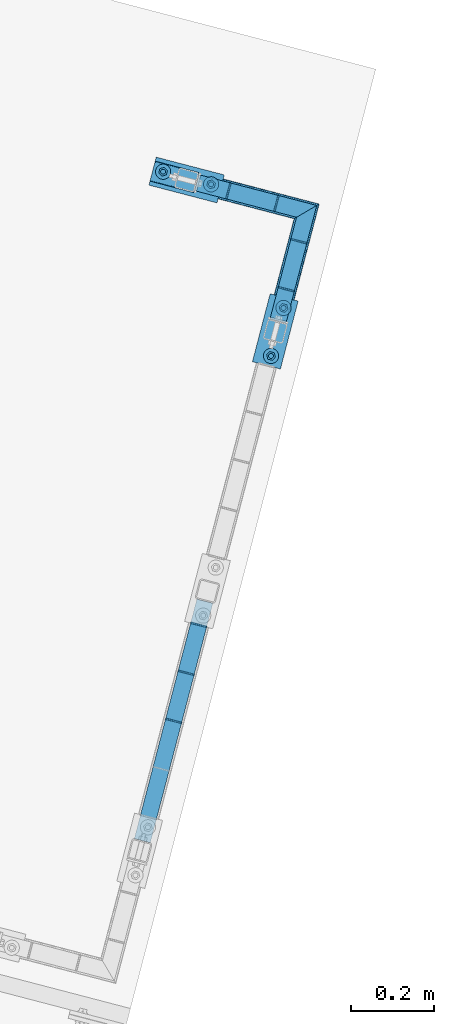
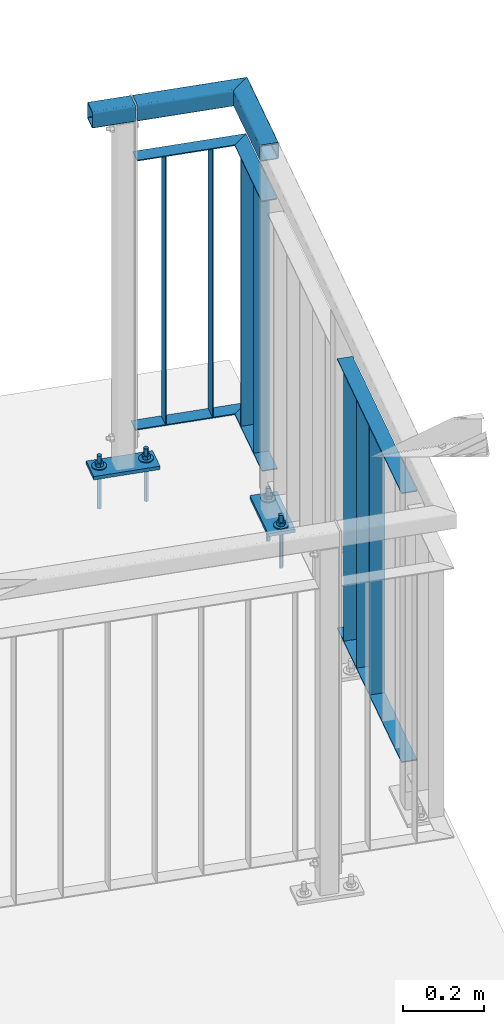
# One storey, part 97 of 169: 18 discrete accessories, 2 mechanical fasteners, 1 element without a shape of its own.
"""IFC2X3 building model written with IfcOpenShell, lengths in millimetres."""

from ifc_helpers import new_model, si_unit, frame, frame_2d, origin_with_axes, origin_2d_with_axis, place, context, subcontext, project, spatial, polyline, circle_curve, parameter, trimmed, segment, composite_curve, rectangle, hollow_rectangle, circle, outline, extrude, boolean, clip, halfspace, source, transform, mapped, material, type_object, element, aggregate, save


model = new_model("IFC2X3")

# Units and contexts
model_context = context("Model", 3, precision=1e-05, world=origin_with_axes())
body_context = subcontext(model_context, "Body", "Model", "MODEL_VIEW")
ifc_project = project(units=[si_unit("LENGTHUNIT", "METRE", prefix="MILLI"), si_unit("AREAUNIT", "SQUARE_METRE"), si_unit("VOLUMEUNIT", "CUBIC_METRE"), si_unit("MASSUNIT", "GRAM", prefix="KILO"), si_unit("TIMEUNIT", "SECOND"), si_unit("PLANEANGLEUNIT", "RADIAN"), si_unit("SOLIDANGLEUNIT", "STERADIAN"), si_unit("THERMODYNAMICTEMPERATUREUNIT", "DEGREE_CELSIUS"), si_unit("LUMINOUSINTENSITYUNIT", "LUMEN")], contexts=[model_context])

# Site, building, storey
site_placement = place(None, origin_with_axes())
site = spatial("IfcSite", under=ifc_project, at=site_placement, Name="Undefined", CompositionType="ELEMENT")
building_placement = place(site_placement, origin_with_axes())
building = spatial("IfcBuilding", under=site, at=building_placement, Name="Undefined", CompositionType="ELEMENT")
storey_placement = place(building_placement, origin_with_axes())
storey = spatial("IfcBuildingStorey", under=building, at=storey_placement, Name="Undefined", CompositionType="ELEMENT", Elevation=0.0)

# Assembly, discrete accessories, mechanical fasteners
assembly_placement = place(storey_placement, origin_with_axes())
assembly = element("IfcElementAssembly", 1, at=assembly_placement, inside=storey, Name="Steel Assembly", AssemblyPlace="NOTDEFINED", PredefinedType="RIGID_FRAME")
ifc_material_1 = material(Name="STEEL/S235")
discrete_accessory_type_1 = type_object("IfcDiscreteAccessoryType", Name="BLACHA")
discrete_accessory_1_placement = place(assembly_placement, frame((-6702.13341684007, 22082.872799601, 12570.4183763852), z_axis=(0.0, 0.0, 1.0), x_axis=(0.967563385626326, -0.252628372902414, 0.0)))
discrete_accessory_1 = element("IfcDiscreteAccessory", 2, at=discrete_accessory_1_placement, type_object=discrete_accessory_type_1, material=ifc_material_1, Name="BLACHA", ObjectType="BL10*170", context=body_context, shape_type="SweptSolid", body=[
    extrude(outline(polyline([(-5.82076609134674e-11, -84.99999999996), (5.82076609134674e-11, 84.99999999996), (70.0000000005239, 84.9999999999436), (70.0000000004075, -84.9999999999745), (-5.82076609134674e-11, -84.99999999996)])), frame((-1.81898926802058e-12, -1.18000176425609e-16, -5.00000000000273), z_axis=(0.0, 0.0, 1.0), x_axis=(1.0, 0.0, 0.0)), (0.0, 0.0, 1.0), 10.0),
])
discrete_accessory_2_placement = place(assembly_placement, frame((-6891.59119518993, 22406.2236156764, 12570.4183764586), z_axis=(0.0, 0.0, 1.0), x_axis=(0.252628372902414, 0.967563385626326, 0.0)))
discrete_accessory_2 = element("IfcDiscreteAccessory", 3, at=discrete_accessory_2_placement, type_object=discrete_accessory_type_1, material=ifc_material_1, Name="BLACHA", ObjectType="BL10*170", context=body_context, shape_type="SweptSolid", body=[
    extrude(outline(polyline([(5.82076609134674e-11, 84.99999999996), (70.0000000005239, 84.9999999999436), (70.0000000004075, -84.9999999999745), (-5.82076609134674e-11, -84.99999999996), (5.82076609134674e-11, 84.99999999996)])), frame((-1.81898926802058e-12, -1.18000176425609e-16, -5.00000000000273), z_axis=(0.0, 0.0, 1.0), x_axis=(1.0, 0.0, 0.0)), (0.0, 0.0, 1.0), 10.0),
])
discrete_accessory_type_2 = type_object("IfcDiscreteAccessoryType", Name="PORĘCZ")
discrete_accessory_3_placement = place(assembly_placement, frame((-6858.56011749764, 22433.7726248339, 13640.4183763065), z_axis=(-0.252628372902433, -0.967563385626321, 0.0), x_axis=(-0.967563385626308, 0.252628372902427, -1.72000000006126e-07)))
discrete_accessory_3 = element("IfcDiscreteAccessory", 4, at=discrete_accessory_3_placement, type_object=discrete_accessory_type_2, material=ifc_material_1, Name="PORĘCZ", ObjectType="RHS50*3", context=body_context, shape_type="SweptSolid", body=[
    extrude(hollow_rectangle(XDim=50.0, YDim=50.0, WallThickness=3.0, InnerFilletRadius=3.0, OuterFilletRadius=6.0, at=origin_2d_with_axis()), frame((109.99999999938, 0.0, 0.0), z_axis=(-1.0, -3.46944695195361e-18, -1.38777878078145e-17), x_axis=(1.73472347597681e-18, -1.0, 0.0)), (0.0, 0.0, 1.0), 110.0),
])
discrete_accessory_4_placement = place(assembly_placement, frame((-6882.74920213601, 22440.0883341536, 13495.4183763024), z_axis=(-2.54700353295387e-10, 0.0, -1.0), x_axis=(0.967563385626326, -0.252628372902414, 0.0)))
discrete_accessory_4 = element("IfcDiscreteAccessory", 5, at=discrete_accessory_4_placement, type_object=discrete_accessory_type_2, material=ifc_material_1, Name="PORĘCZ", ObjectType="BL40*3", context=body_context, shape_type="CSG", body=[
    boolean("DIFFERENCE", boolean("DIFFERENCE", boolean("DIFFERENCE", boolean("DIFFERENCE", extrude(outline(polyline([(29.999999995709, 20.0000000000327), (279.99999995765, 20.0000000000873), (319.999999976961, -19.9999999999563), (29.9999999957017, -20.0000000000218), (29.999999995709, 20.0000000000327)])), frame((1.81898940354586e-12, -1.77635442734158e-15, -1.50000000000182), z_axis=(0.0, 0.0, 1.0), x_axis=(1.0, 0.0, 0.0)), (0.0, 0.0, 1.0), 3.0), extrude(rectangle(XDim=51.0, YDim=51.0, at=origin_2d_with_axis()), frame((-5.94487782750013e-08, -4.65977194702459e-09, -139.999999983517), z_axis=(0.0, 0.0, 1.0), x_axis=(1.0, 0.0, 0.0)), (0.0, 0.0, 1.0), 280.0)), halfspace(frame((29.9999999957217, 999.999999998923, 0.0), z_axis=(1.0, 0.0, 0.0), x_axis=(-2.54700353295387e-10, 0.0, -1.0)), True)), halfspace(frame((279.999999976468, 20.0000000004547, -3.63797880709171e-12), z_axis=(0.707106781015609, 0.707106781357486, 0.0), x_axis=(-2.54700353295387e-10, 0.0, -1.0)), False)), halfspace(frame((24.9999999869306, 1000.00000000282, -1.78988557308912e-09), z_axis=(1.0, 0.0, 0.0), x_axis=(-2.54700353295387e-10, 0.0, -1.0)), True)),
])
discrete_accessory_5_placement = place(assembly_placement, frame((-6781.63882833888, 22413.6886691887, 13640.4183763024), z_axis=(-0.967563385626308, 0.252628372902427, -1.72000000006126e-07), x_axis=(-2.54700353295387e-10, 0.0, -1.0)))
discrete_accessory_5 = element("IfcDiscreteAccessory", 6, at=discrete_accessory_5_placement, type_object=discrete_accessory_type_2, material=ifc_material_1, Name="PORĘCZ", ObjectType="BL40*3", context=body_context, shape_type="Clipping", body=[
    clip(clip(clip(extrude(outline(polyline([(953.5, 20.0000000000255), (953.5, -20.0000000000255), (146.5, -20.0000000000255), (146.5, 20.0000000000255), (953.5, 20.0000000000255)])), frame((1.81898940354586e-12, -1.77635442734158e-15, -1.50000000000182), z_axis=(0.0, 0.0, 1.0), x_axis=(1.0, 0.0, 0.0)), (0.0, 0.0, 1.0), 3.0), halfspace(frame((146.5, 1000.00000000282, -1.78988557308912e-09), z_axis=(1.0, 0.0, 0.0), x_axis=(-2.54700353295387e-10, 0.0, -1.0)), True)), halfspace(frame((24.9999999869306, 1000.00000000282, -1.78988557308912e-09), z_axis=(1.0, 0.0, 0.0), x_axis=(-2.54700353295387e-10, 0.0, -1.0)), True)), halfspace(frame((953.5, 999.999999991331, -2.08819983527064e-09), z_axis=(-1.0, -3.46944695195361e-18, -1.38777878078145e-17), x_axis=(0.0, 0.0, 1.0)), True)),
])
discrete_accessory_6_placement = place(assembly_placement, frame((-6665.53122206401, 22383.3732644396, 13640.4183763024), z_axis=(-0.967563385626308, 0.252628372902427, -1.72000000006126e-07), x_axis=(-2.54700353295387e-10, 0.0, -1.0)))
discrete_accessory_6 = element("IfcDiscreteAccessory", 7, at=discrete_accessory_6_placement, type_object=discrete_accessory_type_2, material=ifc_material_1, Name="PORĘCZ", ObjectType="BL40*3", context=body_context, shape_type="Clipping", body=[
    clip(clip(clip(extrude(outline(polyline([(953.5, 20.0000000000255), (953.5, -20.0000000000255), (146.5, -20.0000000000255), (146.5, 20.0000000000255), (953.5, 20.0000000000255)])), frame((1.81898940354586e-12, -1.77635442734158e-15, -1.50000000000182), z_axis=(0.0, 0.0, 1.0), x_axis=(1.0, 0.0, 0.0)), (0.0, 0.0, 1.0), 3.0), halfspace(frame((146.5, 1000.00000000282, -1.78988557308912e-09), z_axis=(1.0, 0.0, 0.0), x_axis=(-2.54700353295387e-10, 0.0, -1.0)), True)), halfspace(frame((24.9999999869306, 1000.00000000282, -1.78988557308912e-09), z_axis=(1.0, 0.0, 0.0), x_axis=(-2.54700353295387e-10, 0.0, -1.0)), True)), halfspace(frame((953.5, 999.999999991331, -2.08819983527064e-09), z_axis=(-1.0, -3.46944695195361e-18, -1.38777878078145e-17), x_axis=(0.0, 0.0, 1.0)), True)),
])
discrete_accessory_7_placement = place(assembly_placement, frame((-6882.74920213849, 22440.0883341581, 12685.4183763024), z_axis=(-2.54700353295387e-10, 0.0, -1.0), x_axis=(0.967563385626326, -0.252628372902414, 0.0)))
discrete_accessory_7 = element("IfcDiscreteAccessory", 8, at=discrete_accessory_7_placement, type_object=discrete_accessory_type_2, material=ifc_material_1, Name="PORĘCZ", ObjectType="BL40*3", context=body_context, shape_type="CSG", body=[
    boolean("DIFFERENCE", boolean("DIFFERENCE", boolean("DIFFERENCE", boolean("DIFFERENCE", extrude(outline(polyline([(25.4999999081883, 20.0000000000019), (279.99999995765, 20.0000000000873), (319.999999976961, -19.9999999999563), (25.499999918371, -19.9999999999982), (25.4999999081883, 20.0000000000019)])), frame((1.81898940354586e-12, -1.77635442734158e-15, -1.50000000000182), z_axis=(0.0, 0.0, 1.0), x_axis=(1.0, 0.0, 0.0)), (0.0, 0.0, 1.0), 3.0), extrude(rectangle(XDim=51.0, YDim=51.0, at=origin_2d_with_axis()), frame((-5.94487782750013e-08, -4.65977194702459e-09, -139.999999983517), z_axis=(0.0, 0.0, 1.0), x_axis=(1.0, 0.0, 0.0)), (0.0, 0.0, 1.0), 280.0)), halfspace(frame((25.500000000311, 1000.00000000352, -1.81898940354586e-12), z_axis=(1.0, 0.0, 0.0), x_axis=(-2.54700353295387e-10, 0.0, -1.0)), True)), halfspace(frame((279.999999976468, 20.0000000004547, -3.63797880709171e-12), z_axis=(0.707106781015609, 0.707106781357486, 0.0), x_axis=(-2.54700353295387e-10, 0.0, -1.0)), False)), halfspace(frame((24.9999999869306, 1000.00000000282, -1.78988557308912e-09), z_axis=(1.0, 0.0, 0.0), x_axis=(-2.54700353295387e-10, 0.0, -1.0)), True)),
])
discrete_accessory_8_placement = place(assembly_placement, frame((-6578.83825434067, 22416.5482450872, 13495.4183763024), z_axis=(-2.54700353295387e-10, 0.0, -1.0), x_axis=(-0.252628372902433, -0.967563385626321, 0.0)))
discrete_accessory_8 = element("IfcDiscreteAccessory", 9, at=discrete_accessory_8_placement, type_object=discrete_accessory_type_2, material=ifc_material_1, Name="PORĘCZ", ObjectType="BL40*3", context=body_context, shape_type="CSG", body=[
    boolean("DIFFERENCE", boolean("DIFFERENCE", boolean("DIFFERENCE", boolean("DIFFERENCE", extrude(outline(polyline([(324.000000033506, 19.9999999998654), (324.000000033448, -20.0000000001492), (33.9999999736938, -20.0000000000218), (73.9999999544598, 19.9999999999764), (324.000000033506, 19.9999999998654)])), frame((1.81898940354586e-12, -1.77635442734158e-15, -1.50000000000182), z_axis=(0.0, 0.0, 1.0), x_axis=(1.0, 0.0, 0.0)), (0.0, 0.0, 1.0), 3.0), extrude(rectangle(XDim=51.0, YDim=51.0, at=origin_2d_with_axis()), frame((354.00000002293, -5.93172444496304e-09, -140.0), z_axis=(0.0, 0.0, 1.0), x_axis=(1.0, 0.0, 0.0)), (0.0, 0.0, 1.0), 280.0)), halfspace(frame((324.000000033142, 1000.00000000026, 0.0), z_axis=(-1.0, -3.46944695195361e-18, -1.38777878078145e-17), x_axis=(0.0, 0.0, 1.0)), True)), halfspace(frame((73.9999999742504, 20.000000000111, 0.0), z_axis=(0.707106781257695, -0.7071067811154, 8.78533101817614e-11), x_axis=(-2.54700353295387e-10, 0.0, -1.0)), True)), halfspace(frame((329.000000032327, 1000.00000000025, 0.0), z_axis=(-1.0, -3.46944695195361e-18, -1.38777878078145e-17), x_axis=(0.0, 0.0, 1.0)), True)),
])
discrete_accessory_9_placement = place(assembly_placement, frame((-6611.32017011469, 22292.1429296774, 13640.4183763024), z_axis=(0.252628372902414, 0.967563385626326, 0.0), x_axis=(-2.54700353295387e-10, 0.0, -1.0)))
discrete_accessory_9 = element("IfcDiscreteAccessory", 10, at=discrete_accessory_9_placement, type_object=discrete_accessory_type_2, material=ifc_material_1, Name="PORĘCZ", ObjectType="BL40*3", context=body_context, shape_type="Clipping", body=[
    clip(clip(clip(extrude(outline(polyline([(953.5, 20.0000000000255), (953.5, -20.0000000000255), (146.5, -20.0000000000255), (146.5, 20.0000000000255), (953.5, 20.0000000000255)])), frame((1.81898940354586e-12, -1.77635442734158e-15, -1.50000000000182), z_axis=(0.0, 0.0, 1.0), x_axis=(1.0, 0.0, 0.0)), (0.0, 0.0, 1.0), 3.0), halfspace(frame((146.5, 1000.00000000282, -1.78988557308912e-09), z_axis=(1.0, 0.0, 0.0), x_axis=(-2.54700353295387e-10, 0.0, -1.0)), True)), halfspace(frame((24.9999999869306, 1000.00000000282, -1.78988557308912e-09), z_axis=(1.0, 0.0, 0.0), x_axis=(-2.54700353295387e-10, 0.0, -1.0)), True)), halfspace(frame((953.5, 999.999999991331, -2.08819983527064e-09), z_axis=(-1.0, -3.46944695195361e-18, -1.38777878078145e-17), x_axis=(0.0, 0.0, 1.0)), True)),
])
discrete_accessory_10_placement = place(assembly_placement, frame((-6641.63557486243, 22176.0353234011, 13640.4183763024), z_axis=(0.252628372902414, 0.967563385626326, 0.0), x_axis=(-2.54700353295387e-10, 0.0, -1.0)))
discrete_accessory_10 = element("IfcDiscreteAccessory", 11, at=discrete_accessory_10_placement, type_object=discrete_accessory_type_2, material=ifc_material_1, Name="PORĘCZ", ObjectType="BL40*3", context=body_context, shape_type="Clipping", body=[
    clip(clip(clip(extrude(outline(polyline([(953.5, 20.0000000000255), (953.5, -20.0000000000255), (146.5, -20.0000000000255), (146.5, 20.0000000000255), (953.5, 20.0000000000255)])), frame((1.81898940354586e-12, -1.77635442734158e-15, -1.50000000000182), z_axis=(0.0, 0.0, 1.0), x_axis=(1.0, 0.0, 0.0)), (0.0, 0.0, 1.0), 3.0), halfspace(frame((146.5, 1000.00000000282, -1.78988557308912e-09), z_axis=(1.0, 0.0, 0.0), x_axis=(-2.54700353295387e-10, 0.0, -1.0)), True)), halfspace(frame((24.9999999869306, 1000.00000000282, -1.78988557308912e-09), z_axis=(1.0, 0.0, 0.0), x_axis=(-2.54700353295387e-10, 0.0, -1.0)), True)), halfspace(frame((953.5, 999.999999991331, -2.08819983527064e-09), z_axis=(-1.0, -3.46944695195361e-18, -1.38777878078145e-17), x_axis=(0.0, 0.0, 1.0)), True)),
])
discrete_accessory_11_placement = place(assembly_placement, frame((-6578.83825434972, 22416.5482450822, 12685.4183763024), z_axis=(-2.54700353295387e-10, 0.0, -1.0), x_axis=(-0.252628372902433, -0.967563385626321, 0.0)))
discrete_accessory_11 = element("IfcDiscreteAccessory", 12, at=discrete_accessory_11_placement, type_object=discrete_accessory_type_2, material=ifc_material_1, Name="PORĘCZ", ObjectType="BL40*3", context=body_context, shape_type="CSG", body=[
    boolean("DIFFERENCE", boolean("DIFFERENCE", boolean("DIFFERENCE", boolean("DIFFERENCE", extrude(outline(polyline([(327.803633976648, 20.0000000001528), (327.803633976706, -19.9999999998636), (33.9999999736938, -20.0000000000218), (73.9999999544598, 19.9999999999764), (327.803633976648, 20.0000000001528)])), frame((1.81898940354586e-12, -1.77635442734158e-15, -1.50000000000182), z_axis=(0.0, 0.0, 1.0), x_axis=(1.0, 0.0, 0.0)), (0.0, 0.0, 1.0), 3.0), extrude(rectangle(XDim=51.0, YDim=51.0, at=origin_2d_with_axis()), frame((354.00000002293, -5.93172444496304e-09, -140.0), z_axis=(0.0, 0.0, 1.0), x_axis=(1.0, 0.0, 0.0)), (0.0, 0.0, 1.0), 280.0)), halfspace(frame((327.803633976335, 1000.00000000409, -1.81898940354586e-12), z_axis=(-1.0, -3.46944695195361e-18, -1.38777878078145e-17), x_axis=(0.0, 0.0, 1.0)), True)), halfspace(frame((73.9999999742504, 20.000000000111, 0.0), z_axis=(0.707106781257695, -0.7071067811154, 8.78533101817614e-11), x_axis=(-2.54700353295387e-10, 0.0, -1.0)), True)), halfspace(frame((329.000000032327, 1000.00000000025, 0.0), z_axis=(-1.0, -3.46944695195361e-18, -1.38777878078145e-17), x_axis=(0.0, 0.0, 1.0)), True)),
])
discrete_accessory_12_placement = place(assembly_placement, frame((-6844.93380274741, 21397.4057522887, 13495.4183763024), z_axis=(-2.54700353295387e-10, 0.0, -1.0), x_axis=(-0.252628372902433, -0.967563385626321, 0.0)))
discrete_accessory_12 = element("IfcDiscreteAccessory", 13, at=discrete_accessory_12_placement, type_object=discrete_accessory_type_2, material=ifc_material_1, Name="PORĘCZ", ObjectType="BL40*3", context=body_context, shape_type="CSG", body=[
    boolean("DIFFERENCE", boolean("DIFFERENCE", boolean("DIFFERENCE", extrude(outline(polyline([(573.700978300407, 20.0000000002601), (573.700978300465, -19.9999999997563), (-25.3036339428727, -20.00000000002), (-25.3036339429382, 19.9999999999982), (573.700978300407, 20.0000000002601)])), frame((1.81898940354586e-12, -1.77635442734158e-15, -1.50000000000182), z_axis=(0.0, 0.0, 1.0), x_axis=(1.0, 0.0, 0.0)), (0.0, 0.0, 1.0), 3.0), extrude(rectangle(XDim=51.0, YDim=51.0, at=origin_2d_with_axis()), frame((-51.0000000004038, 1.04846549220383e-08, -140.0), z_axis=(0.0, 0.0, 1.0), x_axis=(1.0, 0.0, 0.0)), (0.0, 0.0, 1.0), 280.0)), halfspace(frame((-25.30363394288, 1000.00000000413, 0.0), z_axis=(1.0, 0.0, 0.0), x_axis=(-2.54700353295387e-10, 0.0, -1.0)), True)), halfspace(frame((573.700978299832, 1000.00000000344, 0.0), z_axis=(-1.0, -3.46944695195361e-18, -1.38777878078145e-17), x_axis=(0.0, 0.0, 1.0)), True)),
])
discrete_accessory_13_placement = place(assembly_placement, frame((-6661.95298903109, 22098.2198911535, 13640.4183763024), z_axis=(-0.967563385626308, 0.252628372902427, -1.72000000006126e-07), x_axis=(0.252628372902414, 0.967563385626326, 0.0)))
discrete_accessory_13 = element("IfcDiscreteAccessory", 14, at=discrete_accessory_13_placement, type_object=discrete_accessory_type_2, material=ifc_material_1, Name="PORĘCZ", ObjectType="RHS50*3", context=body_context, shape_type="Clipping", body=[
    clip(clip(extrude(hollow_rectangle(XDim=50.0, YDim=50.0, WallThickness=3.0, InnerFilletRadius=3.0, OuterFilletRadius=6.0, at=origin_2d_with_axis()), frame((312.593915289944, 1.81898940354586e-12, 0.0), z_axis=(-1.0, -3.46944695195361e-18, -1.38777878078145e-17), x_axis=(1.73472347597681e-18, -1.0, 0.0)), (0.0, 0.0, 1.0), 307.59), halfspace(frame((250.000000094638, 1.81898940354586e-12, 25.0000000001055), z_axis=(-0.707106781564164, -2.34576254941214e-10, -0.707106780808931), x_axis=(1.73472347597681e-18, -1.0, 0.0)), True)), halfspace(frame((4.99999708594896, 5.00222085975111e-10, 999.999999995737), z_axis=(1.0, 0.0, 0.0), x_axis=(0.0, 1.0, 0.0)), True)),
])
discrete_accessory_14_placement = place(assembly_placement, frame((-6853.50399758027, 21364.5820174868, 13640.4183763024), z_axis=(0.252628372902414, 0.967563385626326, 0.0), x_axis=(-2.54700353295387e-10, 0.0, -1.0)))
discrete_accessory_14 = element("IfcDiscreteAccessory", 15, at=discrete_accessory_14_placement, type_object=discrete_accessory_type_2, material=ifc_material_1, Name="PORĘCZ", ObjectType="BL40*3", context=body_context, shape_type="Clipping", body=[
    clip(clip(extrude(outline(polyline([(953.5, 20.0000000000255), (953.5, -20.0000000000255), (146.5, -20.0000000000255), (146.5, 20.0000000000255), (953.5, 20.0000000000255)])), frame((1.81898940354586e-12, -1.77635442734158e-15, -1.50000000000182), z_axis=(0.0, 0.0, 1.0), x_axis=(1.0, 0.0, 0.0)), (0.0, 0.0, 1.0), 3.0), halfspace(frame((146.5, 1000.00000000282, -1.78988557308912e-09), z_axis=(1.0, 0.0, 0.0), x_axis=(-2.54700353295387e-10, 0.0, -1.0)), True)), halfspace(frame((953.5, 999.999999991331, -2.08819983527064e-09), z_axis=(-1.0, -3.46944695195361e-18, -1.38777878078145e-17), x_axis=(0.0, 0.0, 1.0)), True)),
])
discrete_accessory_15_placement = place(assembly_placement, frame((-6883.81940232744, 21248.4744112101, 13640.4183763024), z_axis=(0.252628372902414, 0.967563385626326, 0.0), x_axis=(-2.54700353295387e-10, 0.0, -1.0)))
discrete_accessory_15 = element("IfcDiscreteAccessory", 16, at=discrete_accessory_15_placement, type_object=discrete_accessory_type_2, material=ifc_material_1, Name="PORĘCZ", ObjectType="BL40*3", context=body_context, shape_type="Clipping", body=[
    clip(clip(extrude(outline(polyline([(953.5, 20.0000000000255), (953.5, -20.0000000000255), (146.5, -20.0000000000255), (146.5, 20.0000000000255), (953.5, 20.0000000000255)])), frame((1.81898940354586e-12, -1.77635442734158e-15, -1.50000000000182), z_axis=(0.0, 0.0, 1.0), x_axis=(1.0, 0.0, 0.0)), (0.0, 0.0, 1.0), 3.0), halfspace(frame((146.5, 1000.00000000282, -1.78988557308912e-09), z_axis=(1.0, 0.0, 0.0), x_axis=(-2.54700353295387e-10, 0.0, -1.0)), True)), halfspace(frame((953.5, 999.999999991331, -2.08819983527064e-09), z_axis=(-1.0, -3.46944695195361e-18, -1.38777878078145e-17), x_axis=(0.0, 0.0, 1.0)), True)),
])
discrete_accessory_16_placement = place(assembly_placement, frame((-6914.13480707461, 21132.3668049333, 13640.4183763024), z_axis=(0.252628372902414, 0.967563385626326, 0.0), x_axis=(-2.54700353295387e-10, 0.0, -1.0)))
discrete_accessory_16 = element("IfcDiscreteAccessory", 17, at=discrete_accessory_16_placement, type_object=discrete_accessory_type_2, material=ifc_material_1, Name="PORĘCZ", ObjectType="BL40*3", context=body_context, shape_type="Clipping", body=[
    clip(clip(extrude(outline(polyline([(953.5, 20.0000000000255), (953.5, -20.0000000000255), (146.5, -20.0000000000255), (146.5, 20.0000000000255), (953.5, 20.0000000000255)])), frame((1.81898940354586e-12, -1.77635442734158e-15, -1.50000000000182), z_axis=(0.0, 0.0, 1.0), x_axis=(1.0, 0.0, 0.0)), (0.0, 0.0, 1.0), 3.0), halfspace(frame((146.5, 1000.00000000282, -1.78988557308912e-09), z_axis=(1.0, 0.0, 0.0), x_axis=(-2.54700353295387e-10, 0.0, -1.0)), True)), halfspace(frame((953.5, 999.999999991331, -2.08819983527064e-09), z_axis=(-1.0, -3.46944695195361e-18, -1.38777878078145e-17), x_axis=(0.0, 0.0, 1.0)), True)),
])
discrete_accessory_17_placement = place(assembly_placement, frame((-6844.93380275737, 21397.4057522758, 12685.4183763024), z_axis=(-2.54700353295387e-10, 0.0, -1.0), x_axis=(-0.252628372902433, -0.967563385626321, 0.0)))
discrete_accessory_17 = element("IfcDiscreteAccessory", 18, at=discrete_accessory_17_placement, type_object=discrete_accessory_type_2, material=ifc_material_1, Name="PORĘCZ", ObjectType="BL40*3", context=body_context, shape_type="CSG", body=[
    boolean("DIFFERENCE", boolean("DIFFERENCE", boolean("DIFFERENCE", extrude(outline(polyline([(573.700978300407, 20.0000000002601), (573.700978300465, -19.9999999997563), (-25.3036339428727, -20.00000000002), (-25.3036339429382, 19.9999999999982), (573.700978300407, 20.0000000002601)])), frame((1.81898940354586e-12, -1.77635442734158e-15, -1.50000000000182), z_axis=(0.0, 0.0, 1.0), x_axis=(1.0, 0.0, 0.0)), (0.0, 0.0, 1.0), 3.0), extrude(rectangle(XDim=51.0, YDim=51.0, at=origin_2d_with_axis()), frame((-51.0000000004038, 1.04846549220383e-08, -140.0), z_axis=(0.0, 0.0, 1.0), x_axis=(1.0, 0.0, 0.0)), (0.0, 0.0, 1.0), 280.0)), halfspace(frame((-25.30363394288, 1000.00000000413, 0.0), z_axis=(1.0, 0.0, 0.0), x_axis=(-2.54700353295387e-10, 0.0, -1.0)), True)), halfspace(frame((573.700978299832, 1000.00000000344, 0.0), z_axis=(-1.0, -3.46944695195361e-18, -1.38777878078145e-17), x_axis=(0.0, 0.0, 1.0)), True)),
])
discrete_accessory_18_placement = place(assembly_placement, frame((-6592.48018644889, 22364.2998222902, 13640.4183763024), z_axis=(-0.252628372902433, -0.967563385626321, 0.0), x_axis=(-0.967563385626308, 0.252628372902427, -1.72000000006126e-07)))
discrete_accessory_18 = element("IfcDiscreteAccessory", 19, at=discrete_accessory_18_placement, type_object=discrete_accessory_type_2, material=ifc_material_1, Name="PORĘCZ", ObjectType="RHS50*3", context=body_context, shape_type="Clipping", body=[
    clip(clip(extrude(hollow_rectangle(XDim=50.0, YDim=50.0, WallThickness=3.0, InnerFilletRadius=3.0, OuterFilletRadius=6.0, at=origin_2d_with_axis()), frame((270.000000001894, 0.0, 0.0), z_axis=(-1.0, -3.46944695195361e-18, -1.38777878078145e-17), x_axis=(1.73472347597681e-18, -1.0, 0.0)), (0.0, 0.0, 1.0), 316.71), halfspace(frame((270.000000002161, 0.0, 999.999999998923), z_axis=(-1.0, -3.46944695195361e-18, -1.38777878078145e-17), x_axis=(1.73472347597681e-18, -1.0, 0.0)), True)), halfspace(frame((24.9999984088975, -9.09494701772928e-12, 24.9999999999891), z_axis=(-0.707106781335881, -2.34577541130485e-10, 0.707106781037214), x_axis=(1.73472347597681e-18, -1.0, 0.0)), False)),
])
ifc_material_2 = material(Name="Undefined")
discrete_accessory_type_3 = type_object("IfcDiscreteAccessoryType", Name="Bolt assembly")
shared_shape_1 = source(origin_with_axes(), body_context, "Body", "SweptSolid", [
    extrude(outline(composite_curve([segment(polyline([(-7.5, 8.5), (7.5, 8.5)]), True, "CONTINUOUS"), segment(trimmed(circle_curve(frame_2d((7.5, 0.0), x_axis=(0.0, 1.0)), 8.5), [parameter(0.0)], [parameter(3.14159265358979)], False, "PARAMETER"), True, "CONTINUOUS"), segment(polyline([(7.5, -8.5), (-7.5, -8.5)]), True, "CONTINUOUS"), segment(trimmed(circle_curve(frame_2d((-7.5, 0.0), x_axis=(0.0, -1.0)), 8.5), [parameter(0.0)], [parameter(3.14159265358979)], False, "PARAMETER"), True, "DISCONTINUOUS")], self_intersect=False)), frame((0.0, -10.0, 0.0), z_axis=(0.0, 1.0, 0.0), x_axis=(1.0, 0.0, 0.0)), (0.0, 0.0, 1.0), 10.1),
    extrude(outline(polyline([(5.80237031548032, 0.0), (2.90118515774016, 5.02500009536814), (-2.90118515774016, 5.02500009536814), (-5.80237031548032, 0.0), (-2.90118515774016, -5.02500009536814), (2.90118515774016, -5.02500009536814), (5.80237031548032, 0.0)])), frame((0.0, -126.0, 0.0), z_axis=(0.0, 1.0, 0.0), x_axis=(1.0, 0.0, 0.0)), (0.0, 0.0, 1.0), 116.0),
    extrude(circle(Radius=6.0, at=origin_2d_with_axis()), frame((0.0, -10.0, 0.0), z_axis=(0.0, 1.0, 0.0), x_axis=(1.0, 0.0, 0.0)), (0.0, 0.0, 1.0), 44.0),
    extrude(circle(Radius=18.5, at=origin_2d_with_axis()), frame((0.0, 0.0, 0.0), z_axis=(0.0, 1.0, 0.0), x_axis=(1.0, 0.0, 0.0)), (0.0, 0.0, 1.0), 3.0),
    extrude(outline(polyline([(10.96965511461, 0.0), (5.484827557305, 9.50000000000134), (-5.484827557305, 9.50000000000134), (-10.96965511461, 0.0), (-5.484827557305, -9.50000000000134), (5.484827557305, -9.50000000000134), (10.96965511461, 0.0)])), frame((0.0, 2.99999999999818, 0.0), z_axis=(0.0, 1.0, 0.0), x_axis=(1.0, 0.0, 0.0)), (0.0, 0.0, 1.0), 10.0),
])
mechanical_fastener_1_placement = place(assembly_placement, frame((-6648.91743062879, 22068.9782390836, 12575.4183763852), z_axis=(0.252628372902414, 0.967563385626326, 0.0), x_axis=(-0.967563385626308, 0.252628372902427, -1.72000000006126e-07)))
mechanical_fastener_1 = element("IfcMechanicalFastener", 20, at=mechanical_fastener_1_placement, type_object=discrete_accessory_type_3, material=ifc_material_2, Name="Bolt assembly", NominalDiameter=12.0, NominalLength=44.0, context=body_context, shape_type="MappedRepresentation", body=[
    mapped(shared_shape_1, transform((15.0000000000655, 0.0, -59.9999999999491))),
    mapped(shared_shape_1, transform((15.0000000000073, 0.0, 59.9999999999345))),
])
shared_shape_2 = source(origin_with_axes(), body_context, "Body", "SweptSolid", [
    extrude(outline(composite_curve([segment(polyline([(-7.5, 8.5), (7.5, 8.5)]), True, "CONTINUOUS"), segment(trimmed(circle_curve(frame_2d((7.5, 0.0), x_axis=(0.0, 1.0)), 8.5), [parameter(0.0)], [parameter(3.14159265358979)], False, "PARAMETER"), True, "CONTINUOUS"), segment(polyline([(7.5, -8.5), (-7.5, -8.5)]), True, "CONTINUOUS"), segment(trimmed(circle_curve(frame_2d((-7.5, 0.0), x_axis=(0.0, -1.0)), 8.5), [parameter(0.0)], [parameter(3.14159265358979)], False, "PARAMETER"), True, "DISCONTINUOUS")], self_intersect=False)), frame((0.0, -10.0, 0.0), z_axis=(0.0, 1.0, 0.0), x_axis=(1.0, 0.0, 0.0)), (0.0, 0.0, 1.0), 10.1),
    extrude(outline(polyline([(5.80237031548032, 0.0), (2.90118515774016, 5.02500009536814), (-2.90118515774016, 5.02500009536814), (-5.80237031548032, 0.0), (-2.90118515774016, -5.02500009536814), (2.90118515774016, -5.02500009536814), (5.80237031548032, 0.0)])), frame((0.0, -126.0, 0.0), z_axis=(0.0, 1.0, 0.0), x_axis=(1.0, 0.0, 0.0)), (0.0, 0.0, 1.0), 116.0),
    extrude(circle(Radius=6.0, at=origin_2d_with_axis()), frame((0.0, -10.0, 0.0), z_axis=(0.0, 1.0, 0.0), x_axis=(1.0, 0.0, 0.0)), (0.0, 0.0, 1.0), 44.0),
    extrude(circle(Radius=18.5, at=origin_2d_with_axis()), frame((0.0, 0.0, 0.0), z_axis=(0.0, 1.0, 0.0), x_axis=(1.0, 0.0, 0.0)), (0.0, 0.0, 1.0), 3.0),
    extrude(outline(polyline([(10.96965511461, 0.0), (5.484827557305, 9.50000000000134), (-5.484827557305, 9.50000000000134), (-10.96965511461, 0.0), (-5.484827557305, -9.50000000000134), (5.484827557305, -9.50000000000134), (10.96965511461, 0.0)])), frame((0.0, 2.99999999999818, 0.0), z_axis=(0.0, 1.0, 0.0), x_axis=(1.0, 0.0, 0.0)), (0.0, 0.0, 1.0), 10.0),
])
mechanical_fastener_2_placement = place(assembly_placement, frame((-6877.69663467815, 22459.4396018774, 12575.4183764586), z_axis=(-0.967563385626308, 0.252628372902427, -1.72000000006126e-07), x_axis=(-0.252628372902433, -0.967563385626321, 0.0)))
mechanical_fastener_2 = element("IfcMechanicalFastener", 21, at=mechanical_fastener_2_placement, type_object=discrete_accessory_type_3, material=ifc_material_2, Name="Bolt assembly", NominalDiameter=12.0, NominalLength=44.0, context=body_context, shape_type="MappedRepresentation", body=[
    mapped(shared_shape_2, transform((15.0000000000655, 0.0, -59.9999999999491))),
    mapped(shared_shape_2, transform((15.0000000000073, 0.0, 59.9999999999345))),
])
aggregate(assembly, [discrete_accessory_3, discrete_accessory_4, discrete_accessory_5, discrete_accessory_6, discrete_accessory_7, discrete_accessory_8, discrete_accessory_9, discrete_accessory_10, discrete_accessory_11, discrete_accessory_12, discrete_accessory_13, discrete_accessory_14, discrete_accessory_15, discrete_accessory_16, discrete_accessory_17, mechanical_fastener_1, discrete_accessory_1, discrete_accessory_18, mechanical_fastener_2, discrete_accessory_2])

save(model, "model.ifc")
